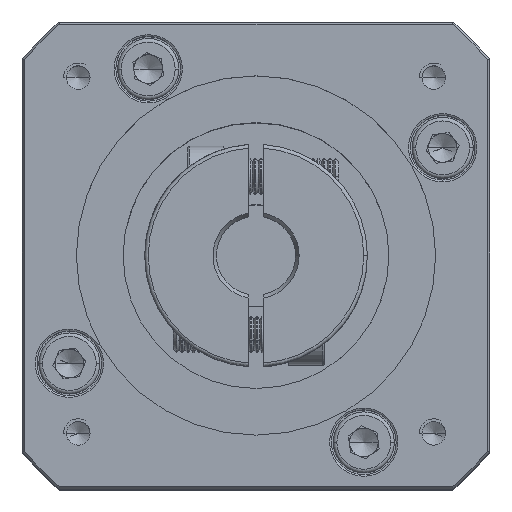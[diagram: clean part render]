
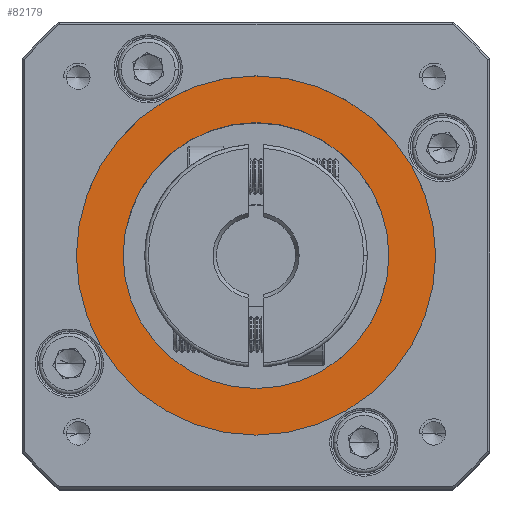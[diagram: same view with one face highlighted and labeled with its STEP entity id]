
A CAD part, top view. The second image highlights one B-rep face of the part: STEP entity #82179.
In plain terms, the highlighted planar face has unit normal (0, 0, 1).
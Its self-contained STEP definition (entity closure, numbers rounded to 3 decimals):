
#2651 = EDGE_CURVE ( 'NONE', #32595, #65262, #98418, .T. ) ;
#8620 = FACE_BOUND ( 'NONE', #109678, .T. ) ;
#9053 = AXIS2_PLACEMENT_3D ( 'NONE', #12135, #106517, #96611 ) ;
#10700 = CARTESIAN_POINT ( 'NONE',  ( -24.543, 43.056, -2.01 ) ) ;
#12135 = CARTESIAN_POINT ( 'NONE',  ( -24.543, 43.056, -2.01 ) ) ;
#13546 = ORIENTED_EDGE ( 'NONE', *, *, #2651, .T. ) ;
#13556 = DIRECTION ( 'NONE',  ( 1., 0., 0. ) ) ;
#15487 = CARTESIAN_POINT ( 'NONE',  ( -49.543, 43.056, -2.01 ) ) ;
#17150 = CARTESIAN_POINT ( 'NONE',  ( 0.457, 43.056, -2.01 ) ) ;
#23568 = EDGE_CURVE ( 'NONE', #109570, #26031, #39595, .T. ) ;
#26031 = VERTEX_POINT ( 'NONE', #15487 ) ;
#32595 = VERTEX_POINT ( 'NONE', #78512 ) ;
#32991 = DIRECTION ( 'NONE',  ( 1., 0., 0. ) ) ;
#39595 = CIRCLE ( 'NONE', #108183, 25. ) ;
#41355 = PLANE ( 'NONE',  #9053 ) ;
#51302 = AXIS2_PLACEMENT_3D ( 'NONE', #80024, #88701, #32991 ) ;
#56464 = DIRECTION ( 'NONE',  ( 0., 0., 1. ) ) ;
#60638 = ORIENTED_EDGE ( 'NONE', *, *, #23568, .T. ) ;
#65262 = VERTEX_POINT ( 'NONE', #68286 ) ;
#68286 = CARTESIAN_POINT ( 'NONE',  ( -6.043, 43.056, -2.01 ) ) ;
#68422 = CARTESIAN_POINT ( 'NONE',  ( -24.543, 43.056, -2.01 ) ) ;
#70947 = AXIS2_PLACEMENT_3D ( 'NONE', #77560, #104389, #114324 ) ;
#72004 = FACE_OUTER_BOUND ( 'NONE', #120666, .T. ) ;
#77560 = CARTESIAN_POINT ( 'NONE',  ( -24.543, 43.056, -2.01 ) ) ;
#78257 = DIRECTION ( 'NONE',  ( 0., 0., -1. ) ) ;
#78512 = CARTESIAN_POINT ( 'NONE',  ( -43.043, 43.056, -2.01 ) ) ;
#80024 = CARTESIAN_POINT ( 'NONE',  ( -24.543, 43.056, -2.01 ) ) ;
#82179 = ADVANCED_FACE ( 'NONE', ( #72004, #8620 ), #41355, .T. ) ;
#85697 = DIRECTION ( 'NONE',  ( 1., 0., 0. ) ) ;
#88701 = DIRECTION ( 'NONE',  ( 0., 0., -1. ) ) ;
#90982 = CIRCLE ( 'NONE', #99256, 18.5 ) ;
#94138 = EDGE_CURVE ( 'NONE', #65262, #32595, #90982, .T. ) ;
#96611 = DIRECTION ( 'NONE',  ( 1., 0., 0. ) ) ;
#98418 = CIRCLE ( 'NONE', #51302, 18.5 ) ;
#99256 = AXIS2_PLACEMENT_3D ( 'NONE', #68422, #78257, #13556 ) ;
#102509 = CIRCLE ( 'NONE', #70947, 25. ) ;
#104389 = DIRECTION ( 'NONE',  ( 0., 0., 1. ) ) ;
#106517 = DIRECTION ( 'NONE',  ( 0., 0., 1. ) ) ;
#107337 = EDGE_CURVE ( 'NONE', #26031, #109570, #102509, .T. ) ;
#107872 = ORIENTED_EDGE ( 'NONE', *, *, #107337, .T. ) ;
#108183 = AXIS2_PLACEMENT_3D ( 'NONE', #10700, #56464, #85697 ) ;
#109570 = VERTEX_POINT ( 'NONE', #17150 ) ;
#109678 = EDGE_LOOP ( 'NONE', ( #109814, #13546 ) ) ;
#109814 = ORIENTED_EDGE ( 'NONE', *, *, #94138, .T. ) ;
#114324 = DIRECTION ( 'NONE',  ( 1., 0., 0. ) ) ;
#120666 = EDGE_LOOP ( 'NONE', ( #60638, #107872 ) ) ;
